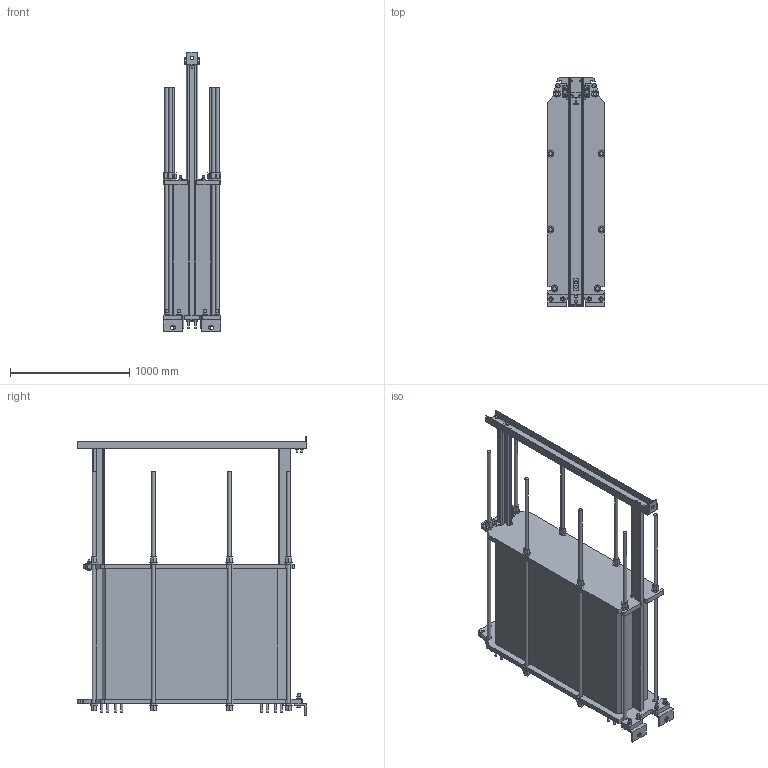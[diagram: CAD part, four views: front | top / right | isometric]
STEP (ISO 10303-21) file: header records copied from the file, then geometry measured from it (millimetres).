
FILE_DESCRIPTION((''),'2;1');
FILE_NAME('c:\temp\TL10_FG_LC2100_AL_01_REV0.stp','2009-06-24T12:18:31',('CNSHFLU'),(''),'Autodesk Inventor 2008','Autodesk Inventor 2008','');
FILE_SCHEMA(('AUTOMOTIVE_DESIGN { 1 0 10303 214 1 1 1 1 }'));
Length unit declared in the file: millimetre
Products named in the file (1): TL10
Bounding box: 483 x 1923 x 2345 mm (x, y, z)
Volume: 666229513 mm3; surface area: 13223874.1 mm2
Topology: 1 solids, 5 shells, 1389 faces, 3632 edges, 2404 vertices
Faces by surface type: plane 750, cylinder 350, bspline 287, cone 2
Full cylindrical faces by diameter (mm): 3.75 x4, 13 x8, 14 x6, 14.2 x2, 16 x34, 22 x9, 24 x10, 28 x1, 30 x8, 37 x4, 40 x2, 60 x1, 100 x4, 110 x4
Entity records: 42421 total; most frequent: CARTESIAN_POINT 8556, ORIENTED_EDGE 6970, DIRECTION 6489, EDGE_CURVE 3485, VECTOR 2687, LINE 2687, VERTEX_POINT 2386, AXIS2_PLACEMENT_3D 1901
